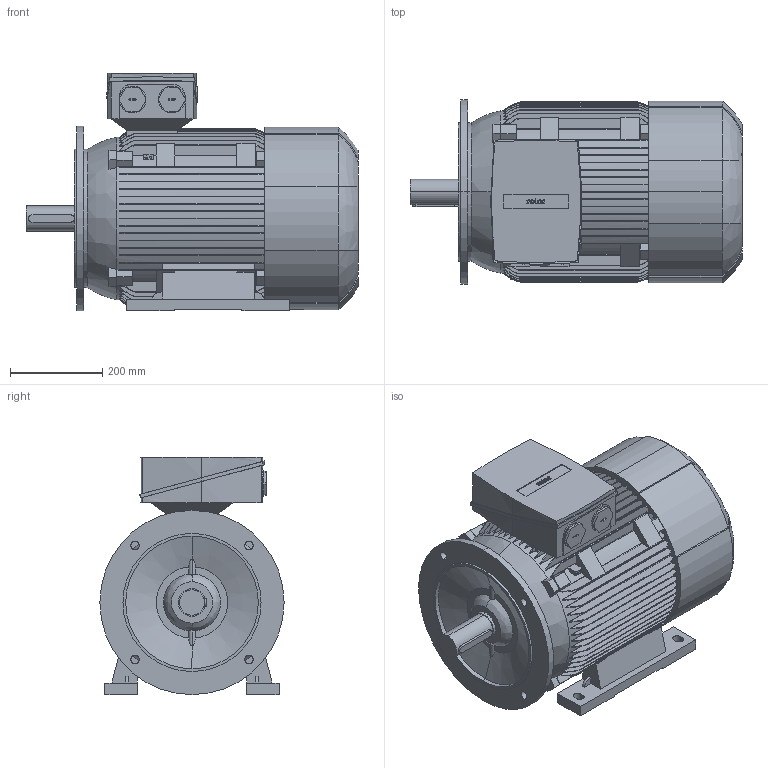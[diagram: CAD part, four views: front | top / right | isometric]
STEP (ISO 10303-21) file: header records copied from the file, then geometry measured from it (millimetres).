
FILE_DESCRIPTION (( 'STEP AP214' ), '1' );
FILE_NAME ('6RN200L04E15U46B IM2021.STEP', '2016-01-04T12:42:02', ( 'rbc_ict' ), ( 'Microsoft' ), 'SwSTEP 2.0', 'SolidWorks 2012', '' );
FILE_SCHEMA (( 'AUTOMOTIVE_DESIGN' ));
Products named in the file (1): 6RN200L04E15U46B IM2021
Bounding box: 721 x 400 x 515 mm (x, y, z)
Volume: 71173696.3 mm3; surface area: 2100914.1 mm2
Topology: 1 solids, 1 shells, 842 faces, 2401 edges, 1591 vertices
Faces by surface type: plane 484, bspline 185, cylinder 165, cone 8
Entity records: 35449 total; most frequent: CARTESIAN_POINT 14804, ORIENTED_EDGE 4802, DIRECTION 3611, EDGE_CURVE 2401, VERTEX_POINT 1591, LINE 1405, VECTOR 1405, AXIS2_PLACEMENT_3D 1103
